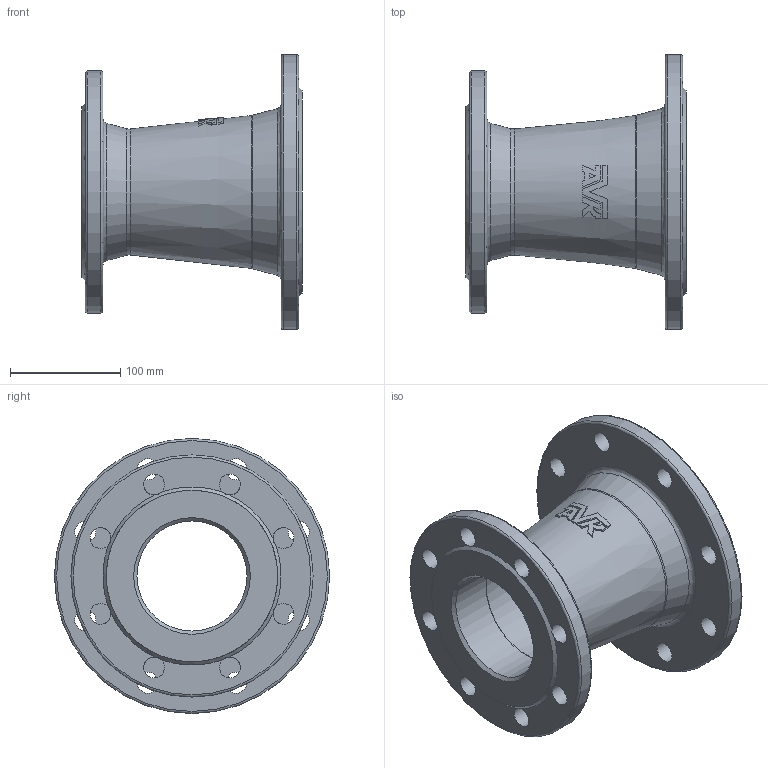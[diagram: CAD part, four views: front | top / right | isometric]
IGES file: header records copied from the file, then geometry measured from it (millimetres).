
Start section: SolidWorks IGES file using analytic representation for surfaces
Global section: file name: \\avksan2\techshare\PBM outline export from Enovia\O_712_2210_DN125_DN100_1X_REV01.igs; native system: SolidWorks 2022; preprocessor: SolidWorks 2022; author: pbm; date: 240807.130117; units: millimetre
Bounding box: 200 x 250 x 250 mm (x, y, z)
Surface area: 287680 mm2 (no closed solid volume)
Topology: 0 solids, 0 shells, 85 faces, 441 edges, 403 vertices
Faces by surface type: revolution 44, bspline 41
